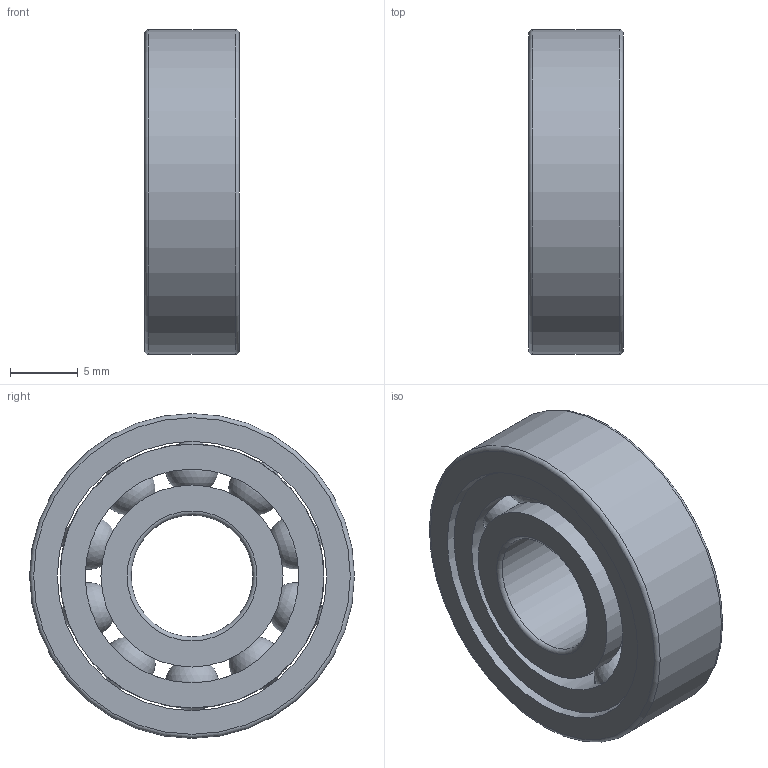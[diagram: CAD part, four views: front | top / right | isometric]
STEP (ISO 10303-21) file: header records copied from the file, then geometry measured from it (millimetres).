
FILE_DESCRIPTION(/* description */ (''),/* implementation_level */ '2;1');
FILE_NAME(/* name */ 'SM_609_TA.step',/* time_stamp */ '2013-03-11T11:33:48+01:00',/* author */ ('Marian'),/* organization */ ('GMN'),/* preprocessor_version */ 'ST-DEVELOPER v11',/* originating_system */ 'SIEMENS UGS NX 6.0',/* authorisation */ '');
FILE_SCHEMA (('CONFIG_CONTROL_DESIGN'));
Length unit declared in the file: millimetre
Products named in the file (1): SM_609_TA
Bounding box: 7 x 24 x 24 mm (x, y, z)
Volume: 2118.8 mm3; surface area: 3197.1 mm2
Topology: 13 solids, 13 shells, 40 faces, 98 edges, 62 vertices
Faces by surface type: cylinder 17, sphere 10, torus 6, plane 6, cone 1
Full cylindrical faces by diameter (mm): 4.169 x10, 9 x1, 13.45 x2, 15.799 x1, 19.5 x1, 19.9 x1, 24 x1
Entity records: 2038 total; most frequent: CARTESIAN_POINT 1271, DIRECTION 122, FACE_BOUND 90, EDGE_LOOP 80, ORIENTED_EDGE 80, AXIS2_PLACEMENT_3D 61, VERTEX_POINT 50, EDGE_CURVE 40
